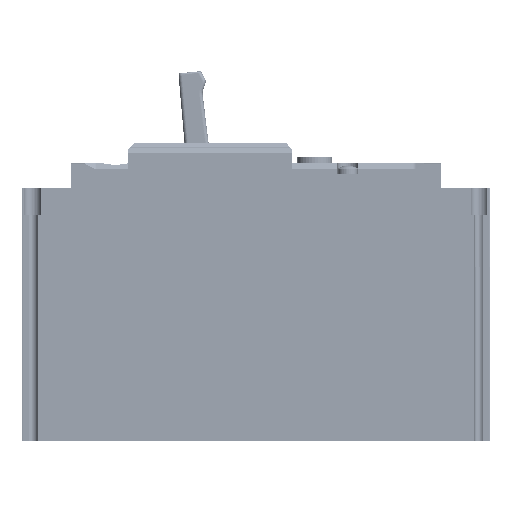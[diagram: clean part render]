
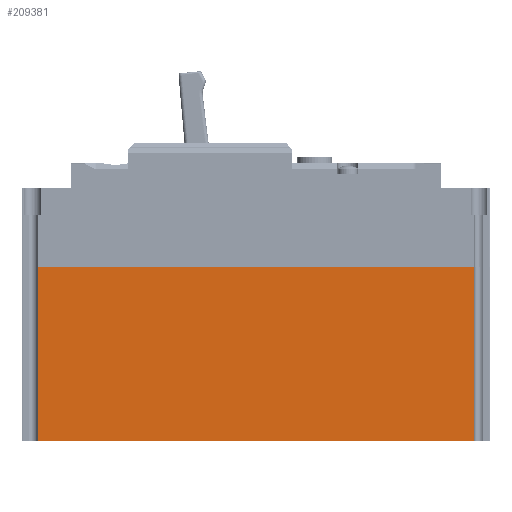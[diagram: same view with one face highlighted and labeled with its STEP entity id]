
A CAD part, left-side view. The second image highlights one B-rep face of the part: STEP entity #209381.
In plain terms, the highlighted planar face has unit normal (-1, 0, 0).
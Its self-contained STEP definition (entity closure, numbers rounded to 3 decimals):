
#970 = AXIS2_PLACEMENT_3D ( 'NONE', #82765, #225809, #141654 ) ;
#2095 = VERTEX_POINT ( 'NONE', #155403 ) ;
#17923 = VERTEX_POINT ( 'NONE', #255728 ) ;
#29241 = VECTOR ( 'NONE', #254186, 1000. ) ;
#29813 = LINE ( 'NONE', #132712, #43401 ) ;
#30893 = CARTESIAN_POINT ( 'NONE',  ( 99.525, 258.198, 36.09 ) ) ;
#43401 = VECTOR ( 'NONE', #87266, 1000. ) ;
#45857 = LINE ( 'NONE', #124766, #124063 ) ;
#47775 = VERTEX_POINT ( 'NONE', #62856 ) ;
#51721 = ORIENTED_EDGE ( 'NONE', *, *, #81676, .T. ) ;
#52314 = CARTESIAN_POINT ( 'NONE',  ( 99.525, 132.198, 36.09 ) ) ;
#58575 = CARTESIAN_POINT ( 'NONE',  ( 99.525, 258.198, 86.09 ) ) ;
#62856 = CARTESIAN_POINT ( 'NONE',  ( 99.525, 258.198, 36.09 ) ) ;
#64036 = FACE_OUTER_BOUND ( 'NONE', #118233, .T. ) ;
#69989 = VECTOR ( 'NONE', #236639, 1000. ) ;
#81676 = EDGE_CURVE ( 'NONE', #47775, #17923, #45857, .T. ) ;
#82765 = CARTESIAN_POINT ( 'NONE',  ( 99.525, 262.698, 86.09 ) ) ;
#87266 = DIRECTION ( 'NONE',  ( 0., -1., 0. ) ) ;
#106020 = DIRECTION ( 'NONE',  ( 0., -1., 0. ) ) ;
#114843 = EDGE_CURVE ( 'NONE', #257056, #2095, #29813, .T. ) ;
#118233 = EDGE_LOOP ( 'NONE', ( #51721, #192413, #170024, #179098 ) ) ;
#121596 = PLANE ( 'NONE',  #970 ) ;
#124063 = VECTOR ( 'NONE', #106020, 1000. ) ;
#124766 = CARTESIAN_POINT ( 'NONE',  ( 99.525, 262.698, 36.09 ) ) ;
#132712 = CARTESIAN_POINT ( 'NONE',  ( 99.525, 262.698, 86.09 ) ) ;
#141654 = DIRECTION ( 'NONE',  ( 0., 1., 0. ) ) ;
#153843 = LINE ( 'NONE', #30893, #69989 ) ;
#155403 = CARTESIAN_POINT ( 'NONE',  ( 99.525, 132.198, 86.09 ) ) ;
#170024 = ORIENTED_EDGE ( 'NONE', *, *, #114843, .F. ) ;
#171332 = EDGE_CURVE ( 'NONE', #17923, #2095, #235408, .T. ) ;
#179098 = ORIENTED_EDGE ( 'NONE', *, *, #228762, .F. ) ;
#192413 = ORIENTED_EDGE ( 'NONE', *, *, #171332, .T. ) ;
#209381 = ADVANCED_FACE ( 'NONE', ( #64036 ), #121596, .F. ) ;
#225809 = DIRECTION ( 'NONE',  ( 1., 0., 0. ) ) ;
#228762 = EDGE_CURVE ( 'NONE', #47775, #257056, #153843, .T. ) ;
#235408 = LINE ( 'NONE', #52314, #29241 ) ;
#236639 = DIRECTION ( 'NONE',  ( 0., 0., 1. ) ) ;
#254186 = DIRECTION ( 'NONE',  ( 0., 0., 1. ) ) ;
#255728 = CARTESIAN_POINT ( 'NONE',  ( 99.525, 132.198, 36.09 ) ) ;
#257056 = VERTEX_POINT ( 'NONE', #58575 ) ;
